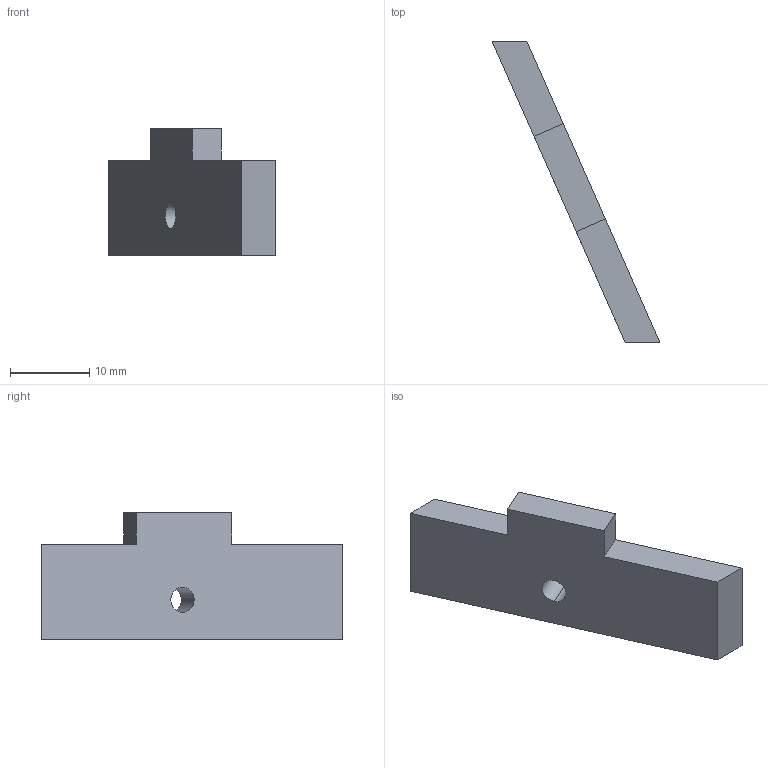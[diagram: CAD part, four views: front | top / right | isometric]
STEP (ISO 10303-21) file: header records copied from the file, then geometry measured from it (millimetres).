
FILE_DESCRIPTION(('STEP AP214'),'1');
FILE_NAME('tmp0.step','2025-05-02T09:06:53',(' '),(' '),'Spatial InterOp 3D',' ',' ');
FILE_SCHEMA(('AUTOMOTIVE_DESIGN { 1 0 10303 214 1 1 1 1 }'));
Length unit declared in the file: millimetre
Products named in the file (1): 1
Bounding box: 21.13 x 38 x 16 mm (x, y, z)
Volume: 2171.3 mm3; surface area: 1595.1 mm2
Topology: 1 solids, 1 shells, 12 faces, 30 edges, 20 vertices
Faces by surface type: plane 10, cylinder 2
Entity records: 387 total; most frequent: CARTESIAN_POINT 63, DIRECTION 60, ORIENTED_EDGE 60, EDGE_CURVE 30, LINE 26, VECTOR 26, VERTEX_POINT 20, AXIS2_PLACEMENT_3D 17
